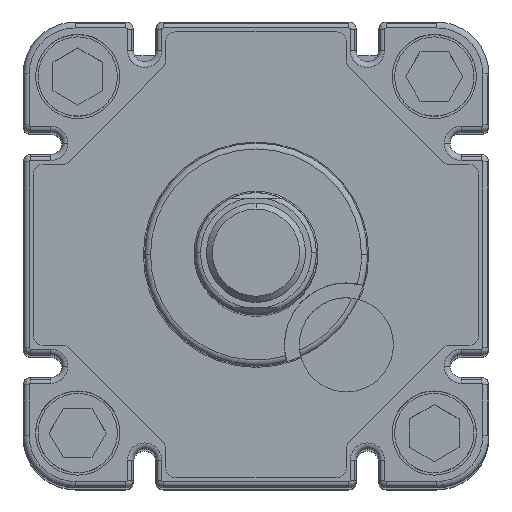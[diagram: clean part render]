
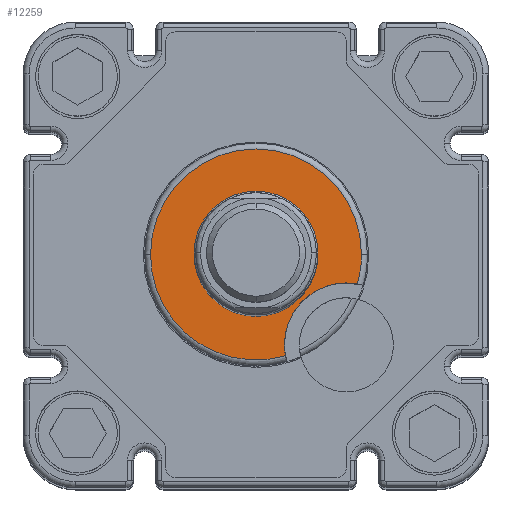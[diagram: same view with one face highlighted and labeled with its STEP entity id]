
A CAD part, top view. The second image highlights one B-rep face of the part: STEP entity #12259.
In plain terms, the highlighted planar face has unit normal (0, 0, 1).
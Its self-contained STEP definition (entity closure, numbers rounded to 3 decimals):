
#4160=CARTESIAN_POINT('',(21.3,0.,286.0));
#4161=VERTEX_POINT('',#4160);
#4169=CARTESIAN_POINT('',(20.453,-5.946,286.0));
#4170=VERTEX_POINT('',#4169);
#4171=CARTESIAN_POINT('',(0.,0.,286.0));
#4172=DIRECTION('',(0.0,0.0,-1.0));
#4173=DIRECTION('',(-1.0,0.0,0.0));
#4174=AXIS2_PLACEMENT_3D('',#4171,#4172,#4173);
#4175=CIRCLE('',#4174,21.3);
#4176=EDGE_CURVE('',#4161,#4170,#4175,.T.);
#4210=CARTESIAN_POINT('',(-21.3,0.,286.0));
#4211=VERTEX_POINT('',#4210);
#4221=CARTESIAN_POINT('',(0.,0.,286.0));
#4222=DIRECTION('',(0.0,0.0,-1.0));
#4223=DIRECTION('',(-1.0,0.0,0.0));
#4224=AXIS2_PLACEMENT_3D('',#4221,#4222,#4223);
#4225=CIRCLE('',#4224,21.3);
#4226=EDGE_CURVE('',#4211,#4161,#4225,.T.);
#5085=CARTESIAN_POINT('',(0.0,12.5,286.0));
#5086=VERTEX_POINT('',#5085);
#5102=CARTESIAN_POINT('',(0.,-12.5,286.0));
#5103=VERTEX_POINT('',#5102);
#5110=CARTESIAN_POINT('',(0.0,0.,286.0));
#5111=DIRECTION('',(0.0,0.0,-1.0));
#5112=DIRECTION('',(0.0,1.0,0.0));
#5113=AXIS2_PLACEMENT_3D('',#5110,#5111,#5112);
#5114=CIRCLE('',#5113,12.5);
#5115=EDGE_CURVE('',#5086,#5103,#5114,.T.);
#7182=CARTESIAN_POINT('',(5.75,-18.25,286.0));
#7183=VERTEX_POINT('',#7182);
#7192=CARTESIAN_POINT('',(5.946,-20.453,286.0));
#7193=VERTEX_POINT('',#7192);
#7194=CARTESIAN_POINT('',(18.25,-18.25,286.0));
#7195=DIRECTION('',(0.0,0.0,-1.0));
#7196=DIRECTION('',(1.0,0.0,0.0));
#7197=AXIS2_PLACEMENT_3D('',#7194,#7195,#7196);
#7198=CIRCLE('',#7197,12.5);
#7199=EDGE_CURVE('',#7193,#7183,#7198,.T.);
#7550=CARTESIAN_POINT('',(18.25,-18.25,286.0));
#7551=DIRECTION('',(0.0,0.0,-1.0));
#7552=DIRECTION('',(1.0,0.0,0.0));
#7553=AXIS2_PLACEMENT_3D('',#7550,#7551,#7552);
#7554=CIRCLE('',#7553,12.5);
#7555=EDGE_CURVE('',#7183,#4170,#7554,.T.);
#11358=CARTESIAN_POINT('',(0.0,0.,286.0));
#11359=DIRECTION('',(0.0,0.0,-1.0));
#11360=DIRECTION('',(0.0,1.0,0.0));
#11361=AXIS2_PLACEMENT_3D('',#11358,#11359,#11360);
#11362=CIRCLE('',#11361,12.5);
#11363=EDGE_CURVE('',#5103,#5086,#11362,.T.);
#12233=CARTESIAN_POINT('',(0.,0.,286.0));
#12234=DIRECTION('',(0.0,0.0,-1.0));
#12235=DIRECTION('',(-1.0,0.0,0.0));
#12236=AXIS2_PLACEMENT_3D('',#12233,#12234,#12235);
#12237=CIRCLE('',#12236,21.3);
#12238=EDGE_CURVE('',#7193,#4211,#12237,.T.);
#12243=CARTESIAN_POINT('',(21.25,-21.25,286.0));
#12244=DIRECTION('',(0.0,0.0,1.0));
#12245=DIRECTION('',(1.0,0.0,0.0));
#12246=AXIS2_PLACEMENT_3D('',#12243,#12244,#12245);
#12247=PLANE('',#12246);
#12248=ORIENTED_EDGE('',*,*,#7199,.T.);
#12249=ORIENTED_EDGE('',*,*,#7555,.T.);
#12250=ORIENTED_EDGE('',*,*,#4176,.F.);
#12251=ORIENTED_EDGE('',*,*,#4226,.F.);
#12252=ORIENTED_EDGE('',*,*,#12238,.F.);
#12253=EDGE_LOOP('',(#12248,#12249,#12250,#12251,#12252));
#12254=FACE_OUTER_BOUND('',#12253,.T.);
#12255=ORIENTED_EDGE('',*,*,#5115,.T.);
#12256=ORIENTED_EDGE('',*,*,#11363,.T.);
#12257=EDGE_LOOP('',(#12255,#12256));
#12258=FACE_BOUND('',#12257,.T.);
#12259=ADVANCED_FACE('',(#12254,#12258),#12247,.T.);
